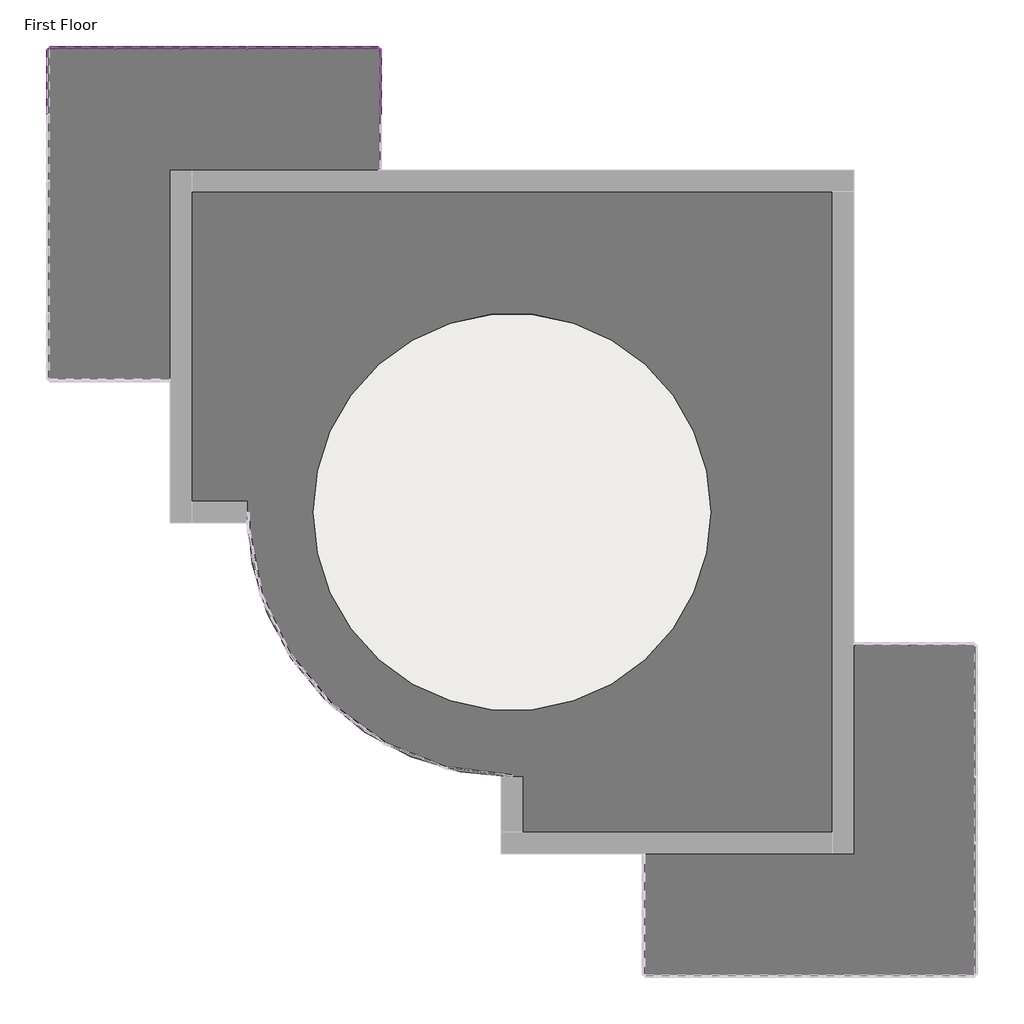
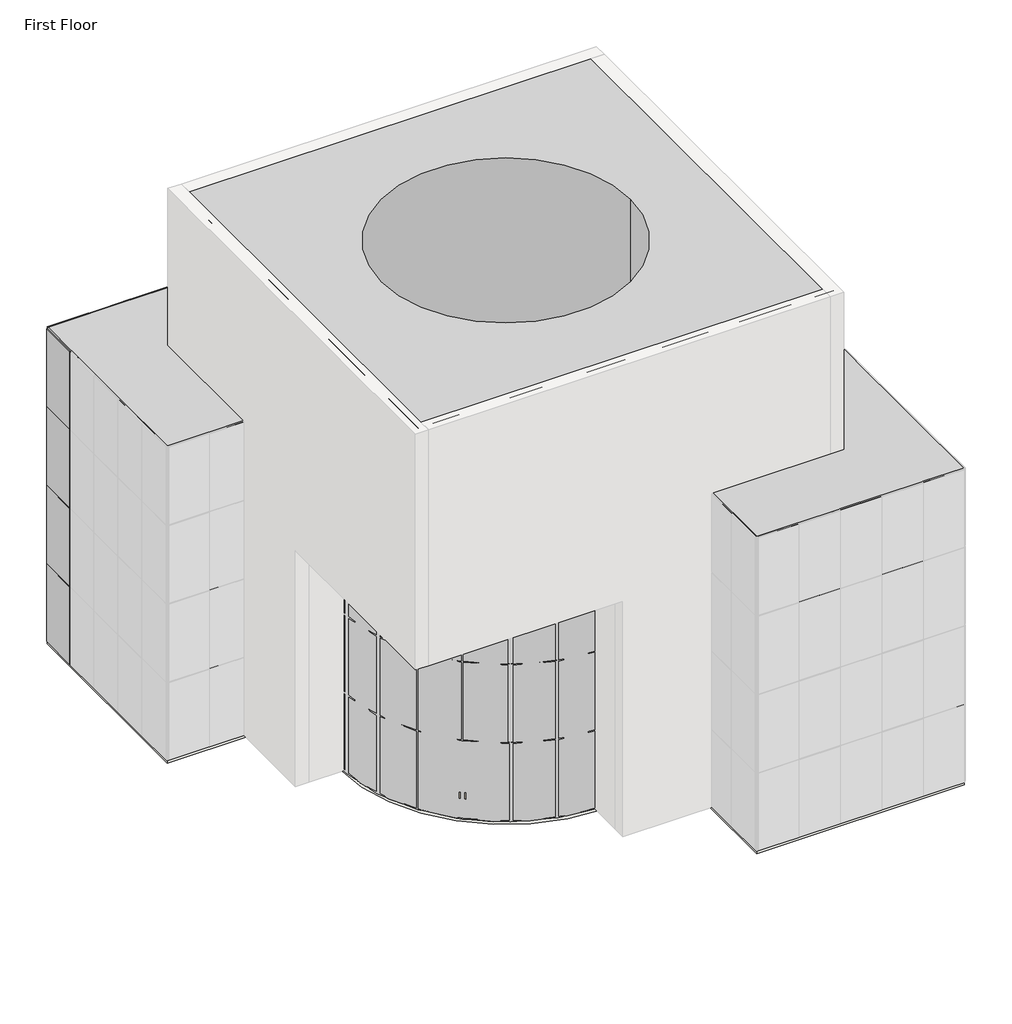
# One storey, part 4 of 4: 75 members, 28 plates, 4 slabs, 2 proxies.
"""IFC4 building model written with IfcOpenShell, lengths in millimetres."""

from ifc_helpers import new_model, si_unit, point, frame, frame_2d, origin, origin_with_axes, place, context, project, spatial, polyline, circle_curve, trimmed, segment, composite_curve, outline, extrude, transform, mapped, element, save
from ifc_brep_helpers import plane_surface, cylinder_surface, revolved_surface, advanced_brep
from components import member_5e617a80, member_74941792, member_cbdb9076, member_7e523723, member_9fd3d903, member_6604d1e0, member_e0356dda, member_be0b070d, system_panel_glazed_9b7d687a, system_panel_glazed_9a901b4a, system_panel_glazed_2d5e1d3d, system_panel_glazed_37964ea6

model = new_model("IFC4")

# Units and contexts
model_context = context("Model", 3, world=origin())
ifc_project = project(units=[si_unit("LENGTHUNIT", "METRE", prefix="MILLI")], contexts=[model_context])

# Site, building, storey
site = spatial("IfcSite", under=ifc_project)
building = spatial("IfcBuilding", under=site)
storey = spatial("IfcBuildingStorey", under=building, Name="First Floor", Elevation=0.0)

# Proxies
placement = place(None, origin())
element("IfcBuildingElementProxy", 1, Name="Central Hall : Central Hall", ObjectType="Central Hall : Central Hall", at=placement, inside=storey, context=model_context, shape_type="AdvancedBrep", body=[
    advanced_brep(
    [(5148.8943843, 6934.0139224, 18288.0), (-10091.1056157, 6934.0139224, 18288.0), (-10091.1056157, -8305.9860776, 18288.0), (5148.8943843, -8305.9860776, 18288.0), (2100.8943843, -685.9860776, 18288.0), (-7043.1056157, -685.9860776, 18288.0), (5148.8943843, 6934.0139224, 0.0), (5148.8943843, -8305.9860776, 0.0), (-2471.1056157, -8305.9860776, 0.0), (-2471.1056157, -6781.9860776, 0.0), (-8567.1056157, -685.9860776, 0.0), (-10091.1056157, -685.9860776, 0.0), (-10091.1056157, 6934.0139224, 0.0), (-7043.1056157, -685.9860776, 0.0), (2100.8943843, -685.9860776, 0.0), (-10091.1056157, -685.9860776, 9144.0), (-10091.1056157, -8305.9860776, 9144.0), (-2471.1056157, -8305.9860776, 9144.0), (-2471.1056157, -6781.9860776, 9144.0), (-8567.1056157, -685.9860776, 9144.0)],
    [
        (0, 1),
        (1, 2),
        (2, 3),
        (3, 0),
        (4, 5, circle_curve(frame((-2471.1056157, -685.9860776, 18288.0), z_axis=(0.0, 0.0, -1.0), x_axis=(1.0, 0.0, 0.0)), 4572.0)),
        (5, 4, circle_curve(frame((-2471.1056157, -685.9860776, 18288.0), z_axis=(0.0, 0.0, -1.0), x_axis=(1.0, 0.0, 0.0)), 4572.0)),
        (6, 7),
        (7, 8),
        (8, 9),
        (9, 10, circle_curve(frame((-2471.1056157, -685.9860776, 0.0), z_axis=(0.0, 0.0, -1.0), x_axis=(1.0, 0.0, 0.0)), 6096.0)),
        (10, 11),
        (11, 12),
        (12, 6),
        (13, 14, circle_curve(frame((-2471.1056157, -685.9860776, 0.0), z_axis=(0.0, 0.0, 1.0), x_axis=(1.0, 0.0, 0.0)), 4572.0)),
        (14, 13, circle_curve(frame((-2471.1056157, -685.9860776, 0.0), z_axis=(0.0, 0.0, 1.0), x_axis=(1.0, 0.0, 0.0)), 4572.0)),
        (0, 6),
        (12, 1),
        (11, 15),
        (15, 16),
        (16, 2),
        (16, 17),
        (17, 8),
        (7, 3),
        (4, 14),
        (13, 5),
        (18, 17),
        (15, 19),
        (19, 18, circle_curve(frame((-2471.1056157, -685.9860776, 9144.0), z_axis=(0.0, 0.0, 1.0), x_axis=(1.0, 0.0, 0.0)), 6096.0)),
        (19, 10),
        (9, 18),
    ],
    [
        plane_surface(frame((-10091.1056157, 6934.0139224, 18288.0), z_axis=(0.0, 0.0, 1.0), x_axis=(-1.0, 0.0, 0.0))),
        plane_surface(frame((-10091.1056157, 6934.0139224, 0.0), z_axis=(0.0, 0.0, -1.0), x_axis=(1.0, 0.0, 0.0))),
        plane_surface(frame((5148.8943843, 6934.0139224, 18288.0), z_axis=(0.0, 1.0, 0.0), x_axis=(0.0, 0.0, -1.0))),
        plane_surface(frame((-10091.1056157, 6934.0139224, 18288.0), z_axis=(-1.0, 0.0, 0.0), x_axis=(0.0, 0.0, -1.0))),
        plane_surface(frame((-10091.1056157, -8305.9860776, 18288.0), z_axis=(0.0, -1.0, 0.0), x_axis=(0.0, 0.0, -1.0))),
        plane_surface(frame((5148.8943843, -8305.9860776, 18288.0), z_axis=(1.0, 0.0, 0.0), x_axis=(0.0, 0.0, -1.0))),
        revolved_surface(polyline([(2100.8943843, -685.9860776, 18288.0), (2100.8943843, -685.9860776, 0.0)]), (-2471.1056157, -685.9860776, 0.0), (0.0, 0.0, 1.0)),
        plane_surface(frame((3624.8943843, -685.9860776, 9144.0), z_axis=(0.0, 0.0, -1.0), x_axis=(0.0, -1.0, 0.0))),
        cylinder_surface(frame((-2471.1056157, -685.9860776, 0.0), z_axis=(0.0, 0.0, -1.0), x_axis=(1.0, 0.0, 0.0)), 6096.0),
        plane_surface(frame((-8567.1056157, -685.9860776, 9144.0), z_axis=(0.0, -1.0, 0.0), x_axis=(0.0, 0.0, -1.0))),
        plane_surface(frame((-2471.1056157, -8305.9860776, 9144.0), z_axis=(-1.0, 0.0, 0.0), x_axis=(0.0, 0.0, -1.0))),
    ],
    [
        (0, [[1, 2, 3, 4], [5, 6]]),
        (1, [[7, 8, 9, 10, 11, 12, 13], [14, 15]]),
        (2, [[-1, 16, -13, 17]]),
        (3, [[-2, -17, -12, 18, 19, 20]]),
        (4, [[-3, -20, 21, 22, -8, 23]]),
        (5, [[-4, -23, -7, -16]]),
        (6, [[24, -14, 25, -5]]),
        (6, [[-24, -6, -25, -15]]),
        (7, [[26, -21, -19, 27, 28]]),
        (8, [[-28, 29, -10, 30]]),
        (9, [[-27, -18, -11, -29]]),
        (10, [[-26, -30, -9, -22]]),
    ],
),
])
element("IfcBuildingElementProxy", 2, Name="Wings : Wings", ObjectType="Wings : Wings", at=placement, inside=storey, context=model_context, shape_type="SweptSolid", body=[
    extrude(outline(polyline([(8196.8943843, -3733.9860776), (8196.8943843, -11353.9860776), (576.8943843, -11353.9860776), (576.8943843, -8305.9860776), (5148.8943843, -8305.9860776), (5148.8943843, -3733.9860776), (8196.8943843, -3733.9860776)])), origin_with_axes(), (0.0, 0.0, 1.0), 12192.0),
    extrude(outline(polyline([(-5519.1056157, 9982.0139224), (-5519.1056157, 6934.0139224), (-10091.1056157, 6934.0139224), (-10091.1056157, 2362.0139224), (-13139.1056157, 2362.0139224), (-13139.1056157, 9982.0139224), (-5519.1056157, 9982.0139224)])), origin_with_axes(), (0.0, 0.0, 1.0), 12192.0),
])

# Members
member_shape = member_5e617a80(model_context)
element("IfcMember", 3, ObjectType="Rectangular Mullion : 1\" Square", at=placement, inside=storey, context=model_context, shape_type="MappedRepresentation", body=[
    mapped(member_shape, transform((-7030.4056157, 9982.0139224, 3048.0), x_axis=(0.0, 0.0, 1.0), y_axis=(0.0, 1.0, 0.0), z_axis=(-0.9999999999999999, 0.0, 0.0))),
])
element("IfcMember", 4, ObjectType="Rectangular Mullion : 1\" Square", at=placement, inside=storey, context=model_context, shape_type="MappedRepresentation", body=[
    mapped(member_shape, transform((-13113.7056157, 9982.0139224, 3048.0), x_axis=(0.0, 0.0, 1.0), y_axis=(0.0, 1.0, 0.0), z_axis=(-1.0, 0.0, 0.0))),
])
element("IfcMember", 5, ObjectType="Rectangular Mullion : 1\" Square", at=placement, inside=storey, context=model_context, shape_type="MappedRepresentation", body=[
    mapped(member_shape, transform((-7030.4056157, 9982.0139224, 6096.0), x_axis=(0.0, 0.0, 1.0), y_axis=(0.0, 1.0, 0.0), z_axis=(-0.9999999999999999, 0.0, 0.0))),
])
element("IfcMember", 6, ObjectType="Rectangular Mullion : 1\" Square", at=placement, inside=storey, context=model_context, shape_type="MappedRepresentation", body=[
    mapped(member_shape, transform((-13113.7056157, 9982.0139224, 6096.0), x_axis=(0.0, 0.0, 1.0), y_axis=(0.0, 1.0, 0.0), z_axis=(-1.0, 0.0, 0.0))),
])
element("IfcMember", 7, ObjectType="Rectangular Mullion : 1\" Square", at=placement, inside=storey, context=model_context, shape_type="MappedRepresentation", body=[
    mapped(member_shape, transform((-7030.4056157, 9982.0139224, 9144.0), x_axis=(0.0, 0.0, 1.0), y_axis=(0.0, 1.0, 0.0), z_axis=(-0.9999999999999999, 0.0, 0.0))),
])
element("IfcMember", 8, ObjectType="Rectangular Mullion : 1\" Square", at=placement, inside=storey, context=model_context, shape_type="MappedRepresentation", body=[
    mapped(member_shape, transform((-13113.7056157, 9982.0139224, 9144.0), x_axis=(0.0, 0.0, 1.0), y_axis=(0.0, 1.0, 0.0), z_axis=(-1.0, 0.0, 0.0))),
])
member_2_shape = member_74941792(model_context)
element("IfcMember", 9, ObjectType="Rectangular Mullion : 1\" Square", at=placement, inside=storey, context=model_context, shape_type="MappedRepresentation", body=[
    mapped(member_2_shape, transform((-13113.7056157, 9982.0139224, 12192.0), x_axis=(0.0, 0.0, 1.0), y_axis=(0.0, 1.0, 0.0), z_axis=(-1.0, 0.0, 0.0))),
])
element("IfcMember", 10, ObjectType="Rectangular Mullion : 1\" Square", at=placement, inside=storey, context=model_context, shape_type="MappedRepresentation", body=[
    mapped(member_2_shape, transform((-7030.4056157, 9982.0139224, 12192.0), x_axis=(0.0, 0.0, 1.0), y_axis=(0.0, 1.0, 0.0), z_axis=(-0.9999999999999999, 0.0, 0.0))),
])
member_3_shape = member_cbdb9076(model_context)
element("IfcMember", 11, ObjectType="Rectangular Mullion : 1\" Square", at=placement, inside=storey, context=model_context, shape_type="MappedRepresentation", body=[
    mapped(member_3_shape, transform((-8567.1056157, 9982.0139224, 6096.0), x_axis=(-1.0, 0.0, 0.0), y_axis=(0.0, 1.0, 0.0), z_axis=(0.0, 0.0, -1.0))),
])
element("IfcMember", 12, ObjectType="Rectangular Mullion : 1\" Square", at=placement, inside=storey, context=model_context, shape_type="MappedRepresentation", body=[
    mapped(member_3_shape, transform((-10091.1056157, 9982.0139224, 3048.0), x_axis=(-1.0, 0.0, 0.0), y_axis=(0.0, 1.0, 0.0), z_axis=(0.0, 0.0, -1.0))),
])
element("IfcMember", 13, ObjectType="Rectangular Mullion : 1\" Square", at=placement, inside=storey, context=model_context, shape_type="MappedRepresentation", body=[
    mapped(member_3_shape, transform((-10091.1056157, 9982.0139224, 6096.0), x_axis=(-1.0, 0.0, 0.0), y_axis=(0.0, 1.0, 0.0), z_axis=(0.0, 0.0, -1.0))),
])
element("IfcMember", 14, ObjectType="Rectangular Mullion : 1\" Square", at=placement, inside=storey, context=model_context, shape_type="MappedRepresentation", body=[
    mapped(member_3_shape, transform((-11615.1056157, 9982.0139224, 3048.0), x_axis=(-1.0, 0.0, 0.0), y_axis=(0.0, 1.0, 0.0), z_axis=(0.0, 0.0, -1.0))),
])
element("IfcMember", 15, ObjectType="Rectangular Mullion : 1\" Square", at=placement, inside=storey, context=model_context, shape_type="MappedRepresentation", body=[
    mapped(member_3_shape, transform((-11615.1056157, 9982.0139224, 6096.0), x_axis=(-1.0, 0.0, 0.0), y_axis=(0.0, 1.0, 0.0), z_axis=(0.0, 0.0, -1.0))),
])
element("IfcMember", 16, ObjectType="Rectangular Mullion : 1\" Square", at=placement, inside=storey, context=model_context, shape_type="MappedRepresentation", body=[
    mapped(member_3_shape, transform((-7043.1056157, 9982.0139224, 3048.0), x_axis=(-1.0, 0.0, 0.0), y_axis=(0.0, 1.0, 0.0), z_axis=(0.0, 0.0, -1.0))),
])
element("IfcMember", 17, ObjectType="Rectangular Mullion : 1\" Square", at=placement, inside=storey, context=model_context, shape_type="MappedRepresentation", body=[
    mapped(member_3_shape, transform((-7043.1056157, 9982.0139224, 6096.0), x_axis=(-1.0, 0.0, 0.0), y_axis=(0.0, 1.0, 0.0), z_axis=(0.0, 0.0, -1.0))),
])
element("IfcMember", 18, ObjectType="Rectangular Mullion : 1\" Square", at=placement, inside=storey, context=model_context, shape_type="MappedRepresentation", body=[
    mapped(member_3_shape, transform((-8567.1056157, 9982.0139224, 3048.0), x_axis=(-1.0, 0.0, 0.0), y_axis=(0.0, 1.0, 0.0), z_axis=(0.0, 0.0, -1.0))),
])
element("IfcMember", 19, ObjectType="Rectangular Mullion : 1\" Square", at=placement, inside=storey, context=model_context, shape_type="MappedRepresentation", body=[
    mapped(member_3_shape, transform((-5519.1056157, 9978.8389224, 3048.0), x_axis=(0.0, 1.0, 0.0), y_axis=(1.0, 0.0, 0.0), z_axis=(0.0, 0.0, -1.0))),
])
element("IfcMember", 20, ObjectType="Rectangular Mullion : 1\" Square", at=placement, inside=storey, context=model_context, shape_type="MappedRepresentation", body=[
    mapped(member_3_shape, transform((-5519.1056157, 9978.8389224, 6096.0), x_axis=(0.0, 1.0, 0.0), y_axis=(1.0, 0.0, 0.0), z_axis=(0.0, 0.0, -1.0))),
])
element("IfcMember", 21, ObjectType="Rectangular Mullion : 1\" Square", at=placement, inside=storey, context=model_context, shape_type="MappedRepresentation", body=[
    mapped(member_3_shape, transform((-5519.1056157, 8454.8389224, 3048.0), x_axis=(0.0, 1.0, 0.0), y_axis=(1.0, 0.0, 0.0), z_axis=(0.0, 0.0, -1.0))),
])
element("IfcMember", 22, ObjectType="Rectangular Mullion : 1\" Square", at=placement, inside=storey, context=model_context, shape_type="MappedRepresentation", body=[
    mapped(member_3_shape, transform((-5519.1056157, 8454.8389224, 6096.0), x_axis=(0.0, 1.0, 0.0), y_axis=(1.0, 0.0, 0.0), z_axis=(0.0, 0.0, -1.0))),
])
element("IfcMember", 23, ObjectType="Rectangular Mullion : 1\" Square", at=placement, inside=storey, context=model_context, shape_type="MappedRepresentation", body=[
    mapped(member_3_shape, transform((-8567.1056157, 9982.0139224, 9144.0), x_axis=(-1.0, 0.0, 0.0), y_axis=(0.0, 1.0, 0.0), z_axis=(0.0, 0.0, -1.0))),
])
element("IfcMember", 24, ObjectType="Rectangular Mullion : 1\" Square", at=placement, inside=storey, context=model_context, shape_type="MappedRepresentation", body=[
    mapped(member_3_shape, transform((-10091.1056157, 9982.0139224, 9144.0), x_axis=(-1.0, 0.0, 0.0), y_axis=(0.0, 1.0, 0.0), z_axis=(0.0, 0.0, -1.0))),
])
element("IfcMember", 25, ObjectType="Rectangular Mullion : 1\" Square", at=placement, inside=storey, context=model_context, shape_type="MappedRepresentation", body=[
    mapped(member_3_shape, transform((-11615.1056157, 9982.0139224, 9144.0), x_axis=(-1.0, 0.0, 0.0), y_axis=(0.0, 1.0, 0.0), z_axis=(0.0, 0.0, -1.0))),
])
element("IfcMember", 26, ObjectType="Rectangular Mullion : 1\" Square", at=placement, inside=storey, context=model_context, shape_type="MappedRepresentation", body=[
    mapped(member_3_shape, transform((-7043.1056157, 9982.0139224, 9144.0), x_axis=(-1.0, 0.0, 0.0), y_axis=(0.0, 1.0, 0.0), z_axis=(0.0, 0.0, -1.0))),
])
element("IfcMember", 27, ObjectType="Rectangular Mullion : 1\" Square", at=placement, inside=storey, context=model_context, shape_type="MappedRepresentation", body=[
    mapped(member_3_shape, transform((-5519.1056157, 9978.8389224, 9144.0), x_axis=(0.0, 1.0, 0.0), y_axis=(1.0, 0.0, 0.0), z_axis=(0.0, 0.0, -1.0))),
])
element("IfcMember", 28, ObjectType="Rectangular Mullion : 1\" Square", at=placement, inside=storey, context=model_context, shape_type="MappedRepresentation", body=[
    mapped(member_3_shape, transform((-5519.1056157, 8454.8389224, 9144.0), x_axis=(0.0, 1.0, 0.0), y_axis=(1.0, 0.0, 0.0), z_axis=(0.0, 0.0, -1.0))),
])
element("IfcMember", 29, ObjectType="Rectangular Mullion : 1\" Square", at=placement, inside=storey, context=model_context, shape_type="MappedRepresentation", body=[
    mapped(member_3_shape, transform((-7043.1056157, 9982.0139224, 0.0), x_axis=(-1.0, 0.0, 0.0), y_axis=(0.0, 1.0, 0.0), z_axis=(0.0, 0.0, -1.0))),
])
element("IfcMember", 30, ObjectType="Rectangular Mullion : 1\" Square", at=placement, inside=storey, context=model_context, shape_type="MappedRepresentation", body=[
    mapped(member_3_shape, transform((-8567.1056157, 9982.0139224, 0.0), x_axis=(-1.0, 0.0, 0.0), y_axis=(0.0, 1.0, 0.0), z_axis=(0.0, 0.0, -1.0))),
])
element("IfcMember", 31, ObjectType="Rectangular Mullion : 1\" Square", at=placement, inside=storey, context=model_context, shape_type="MappedRepresentation", body=[
    mapped(member_3_shape, transform((-10091.1056157, 9982.0139224, 0.0), x_axis=(-1.0, 0.0, 0.0), y_axis=(0.0, 1.0, 0.0), z_axis=(0.0, 0.0, -1.0))),
])
element("IfcMember", 32, ObjectType="Rectangular Mullion : 1\" Square", at=placement, inside=storey, context=model_context, shape_type="MappedRepresentation", body=[
    mapped(member_3_shape, transform((-11615.1056157, 9982.0139224, 0.0), x_axis=(-1.0, 0.0, 0.0), y_axis=(0.0, 1.0, 0.0), z_axis=(0.0, 0.0, -1.0))),
])
element("IfcMember", 33, ObjectType="Rectangular Mullion : 1\" Square", at=placement, inside=storey, context=model_context, shape_type="MappedRepresentation", body=[
    mapped(member_3_shape, transform((-5519.1056157, 9978.8389224, 0.0), x_axis=(0.0, 1.0, 0.0), y_axis=(1.0, 0.0, 0.0), z_axis=(0.0, 0.0, -1.0))),
])
element("IfcMember", 34, ObjectType="Rectangular Mullion : 1\" Square", at=placement, inside=storey, context=model_context, shape_type="MappedRepresentation", body=[
    mapped(member_3_shape, transform((-5519.1056157, 8454.8389224, 0.0), x_axis=(0.0, 1.0, 0.0), y_axis=(1.0, 0.0, 0.0), z_axis=(0.0, 0.0, -1.0))),
])
element("IfcMember", 35, ObjectType="Rectangular Mullion : 1\" Square", at=placement, inside=storey, context=model_context, shape_type="MappedRepresentation", body=[
    mapped(member_2_shape, transform((-13139.1056157, 9956.6139224, 0.0), x_axis=(0.0, 0.0, -1.0), y_axis=(-1.0, 0.0, 0.0), z_axis=(0.0, 1.0, 0.0))),
])
element("IfcMember", 36, ObjectType="Rectangular Mullion : 1\" Square", at=placement, inside=storey, context=model_context, shape_type="MappedRepresentation", body=[
    mapped(member_2_shape, transform((-5544.5056157, 9982.0139224, 0.0), x_axis=(0.0, 0.0, -1.0), y_axis=(0.0, 1.0, 0.0), z_axis=(0.9999999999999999, 0.0, 0.0))),
])
element("IfcMember", 37, ObjectType="Rectangular Mullion : 1\" Square", at=placement, inside=storey, context=model_context, shape_type="MappedRepresentation", body=[
    mapped(member_2_shape, transform((-11627.8056157, 9982.0139224, 0.0), x_axis=(0.0, 0.0, -1.0), y_axis=(0.0, 1.0, 0.0), z_axis=(1.0, 0.0, 0.0))),
])
member_4_shape = member_7e523723(model_context)
element("IfcMember", 38, ObjectType="Rectangular Mullion : 1\" Square", at=placement, inside=storey, context=model_context, shape_type="MappedRepresentation", body=[
    mapped(member_4_shape, transform((-13139.1056157, 9982.0139224, 12192.0), x_axis=(0.0, 1.0, 0.0), y_axis=(-1.0, 0.0, 0.0), z_axis=(0.0, 0.0, 1.0))),
])
element("IfcMember", 39, ObjectType="Rectangular Mullion : 1\" Square", at=placement, inside=storey, context=model_context, shape_type="MappedRepresentation", body=[
    mapped(member_4_shape, transform((-5519.1056157, 9982.0139224, 12192.0), x_axis=(1.0, 0.0, 0.0), y_axis=(0.0, 1.0, 0.0), z_axis=(0.0, 0.0, 1.0))),
])
element("IfcMember", 40, ObjectType="Rectangular Mullion : 1\" Square", at=placement, inside=storey, context=model_context, shape_type="MappedRepresentation", body=[
    mapped(member_4_shape, transform((-13139.1056157, 9982.0139224, 3048.0), x_axis=(-1.0, 0.0, 0.0), y_axis=(0.0, 1.0, 0.0), z_axis=(0.0, 0.0, -1.0))),
])
element("IfcMember", 41, ObjectType="Rectangular Mullion : 1\" Square", at=placement, inside=storey, context=model_context, shape_type="MappedRepresentation", body=[
    mapped(member_4_shape, transform((-13139.1056157, 9982.0139224, 6096.0), x_axis=(-1.0, 0.0, 0.0), y_axis=(0.0, 1.0, 0.0), z_axis=(0.0, 0.0, -1.0))),
])
element("IfcMember", 42, ObjectType="Rectangular Mullion : 1\" Square", at=placement, inside=storey, context=model_context, shape_type="MappedRepresentation", body=[
    mapped(member_4_shape, transform((-13139.1056157, 9982.0139224, 9144.0), x_axis=(-1.0, 0.0, 0.0), y_axis=(0.0, 1.0, 0.0), z_axis=(0.0, 0.0, -1.0))),
])
element("IfcMember", 43, ObjectType="Rectangular Mullion : 1\" Square", at=placement, inside=storey, context=model_context, shape_type="MappedRepresentation", body=[
    mapped(member_4_shape, transform((-13139.1056157, 9982.0139224, 3048.0), x_axis=(0.0, 1.0, 0.0), y_axis=(-1.0, 0.0, 0.0), z_axis=(0.0, 0.0, 1.0))),
])
element("IfcMember", 44, ObjectType="Rectangular Mullion : 1\" Square", at=placement, inside=storey, context=model_context, shape_type="MappedRepresentation", body=[
    mapped(member_4_shape, transform((-5519.1056157, 9982.0139224, 3048.0), x_axis=(1.0, 0.0, 0.0), y_axis=(0.0, 1.0, 0.0), z_axis=(0.0, 0.0, 1.0))),
])
element("IfcMember", 45, ObjectType="Rectangular Mullion : 1\" Square", at=placement, inside=storey, context=model_context, shape_type="MappedRepresentation", body=[
    mapped(member_4_shape, transform((-13139.1056157, 9982.0139224, 6096.0), x_axis=(0.0, 1.0, 0.0), y_axis=(-1.0, 0.0, 0.0), z_axis=(0.0, 0.0, 1.0))),
])
element("IfcMember", 46, ObjectType="Rectangular Mullion : 1\" Square", at=placement, inside=storey, context=model_context, shape_type="MappedRepresentation", body=[
    mapped(member_4_shape, transform((-13139.1056157, 9982.0139224, 9144.0), x_axis=(0.0, 1.0, 0.0), y_axis=(-1.0, 0.0, 0.0), z_axis=(0.0, 0.0, 1.0))),
])
element("IfcMember", 47, ObjectType="Rectangular Mullion : 1\" Square", at=placement, inside=storey, context=model_context, shape_type="MappedRepresentation", body=[
    mapped(member_4_shape, transform((-5519.1056157, 9982.0139224, 6096.0), x_axis=(1.0, 0.0, 0.0), y_axis=(0.0, 1.0, 0.0), z_axis=(0.0, 0.0, 1.0))),
])
element("IfcMember", 48, ObjectType="Rectangular Mullion : 1\" Square", at=placement, inside=storey, context=model_context, shape_type="MappedRepresentation", body=[
    mapped(member_4_shape, transform((-5519.1056157, 9982.0139224, 9144.0), x_axis=(1.0, 0.0, 0.0), y_axis=(0.0, 1.0, 0.0), z_axis=(0.0, 0.0, 1.0))),
])
element("IfcMember", 49, ObjectType="Rectangular Mullion : 1\" Square", at=placement, inside=storey, context=model_context, shape_type="MappedRepresentation", body=[
    mapped(member_4_shape, transform((-13139.1056157, 9982.0139224, 0.0), x_axis=(-1.0, 0.0, 0.0), y_axis=(0.0, 1.0, 0.0), z_axis=(0.0, 0.0, -1.0))),
])
member_5_shape = member_9fd3d903(model_context)
element("IfcMember", 50, ObjectType="Rectangular Mullion : 1\" Square", at=placement, inside=storey, context=model_context, shape_type="MappedRepresentation", body=[
    mapped(member_5_shape, transform((-8554.4056157, 9982.0139224, 3048.0), x_axis=(0.0, 0.0, 1.0), y_axis=(0.0, 1.0, 0.0), z_axis=(-1.0, 0.0, 0.0))),
])
element("IfcMember", 51, ObjectType="Rectangular Mullion : 1\" Square", at=placement, inside=storey, context=model_context, shape_type="MappedRepresentation", body=[
    mapped(member_5_shape, transform((-10078.4056157, 9982.0139224, 3048.0), x_axis=(0.0, 0.0, 1.0), y_axis=(0.0, 1.0, 0.0), z_axis=(-0.9999999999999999, 0.0, 0.0))),
])
element("IfcMember", 52, ObjectType="Rectangular Mullion : 1\" Square", at=placement, inside=storey, context=model_context, shape_type="MappedRepresentation", body=[
    mapped(member_5_shape, transform((-11602.4056157, 9982.0139224, 3048.0), x_axis=(0.0, 0.0, 1.0), y_axis=(0.0, 1.0, 0.0), z_axis=(-1.0, 0.0, 0.0))),
])
element("IfcMember", 53, ObjectType="Rectangular Mullion : 1\" Square", at=placement, inside=storey, context=model_context, shape_type="MappedRepresentation", body=[
    mapped(member_5_shape, transform((-8554.4056157, 9982.0139224, 6096.0), x_axis=(0.0, 0.0, 1.0), y_axis=(0.0, 1.0, 0.0), z_axis=(-1.0, 0.0, 0.0))),
])
element("IfcMember", 54, ObjectType="Rectangular Mullion : 1\" Square", at=placement, inside=storey, context=model_context, shape_type="MappedRepresentation", body=[
    mapped(member_5_shape, transform((-10078.4056157, 9982.0139224, 6096.0), x_axis=(0.0, 0.0, 1.0), y_axis=(0.0, 1.0, 0.0), z_axis=(-0.9999999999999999, 0.0, 0.0))),
])
element("IfcMember", 55, ObjectType="Rectangular Mullion : 1\" Square", at=placement, inside=storey, context=model_context, shape_type="MappedRepresentation", body=[
    mapped(member_5_shape, transform((-11602.4056157, 9982.0139224, 6096.0), x_axis=(0.0, 0.0, 1.0), y_axis=(0.0, 1.0, 0.0), z_axis=(-1.0, 0.0, 0.0))),
])
element("IfcMember", 56, ObjectType="Rectangular Mullion : 1\" Square", at=placement, inside=storey, context=model_context, shape_type="MappedRepresentation", body=[
    mapped(member_5_shape, transform((-8554.4056157, 9982.0139224, 9144.0), x_axis=(0.0, 0.0, 1.0), y_axis=(0.0, 1.0, 0.0), z_axis=(-1.0, 0.0, 0.0))),
])
element("IfcMember", 57, ObjectType="Rectangular Mullion : 1\" Square", at=placement, inside=storey, context=model_context, shape_type="MappedRepresentation", body=[
    mapped(member_5_shape, transform((-10078.4056157, 9982.0139224, 9144.0), x_axis=(0.0, 0.0, 1.0), y_axis=(0.0, 1.0, 0.0), z_axis=(-0.9999999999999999, 0.0, 0.0))),
])
element("IfcMember", 58, ObjectType="Rectangular Mullion : 1\" Square", at=placement, inside=storey, context=model_context, shape_type="MappedRepresentation", body=[
    mapped(member_5_shape, transform((-11602.4056157, 9982.0139224, 9144.0), x_axis=(0.0, 0.0, 1.0), y_axis=(0.0, 1.0, 0.0), z_axis=(-1.0, 0.0, 0.0))),
])
element("IfcMember", 59, ObjectType="Rectangular Mullion : 1\" Square", at=placement, inside=storey, context=model_context, shape_type="MappedRepresentation", body=[
    mapped(member_5_shape, transform((-5519.1056157, 9966.1389224, 3048.0), x_axis=(0.0, 0.0, 1.0), y_axis=(1.0, 0.0, 0.0), z_axis=(0.0, 1.0, 0.0))),
])
element("IfcMember", 60, ObjectType="Rectangular Mullion : 1\" Square", at=placement, inside=storey, context=model_context, shape_type="MappedRepresentation", body=[
    mapped(member_5_shape, transform((-5519.1056157, 9966.1389224, 6096.0), x_axis=(0.0, 0.0, 1.0), y_axis=(1.0, 0.0, 0.0), z_axis=(0.0, 1.0, 0.0))),
])
element("IfcMember", 61, ObjectType="Rectangular Mullion : 1\" Square", at=placement, inside=storey, context=model_context, shape_type="MappedRepresentation", body=[
    mapped(member_5_shape, transform((-5519.1056157, 9966.1389224, 9144.0), x_axis=(0.0, 0.0, 1.0), y_axis=(1.0, 0.0, 0.0), z_axis=(0.0, 1.0, 0.0))),
])
member_6_shape = member_6604d1e0(model_context)
element("IfcMember", 62, ObjectType="Rectangular Mullion : 1\" Square", at=placement, inside=storey, context=model_context, shape_type="MappedRepresentation", body=[
    mapped(member_6_shape, transform((-8554.4056157, 9982.0139224, 12192.0), x_axis=(0.0, 0.0, 1.0), y_axis=(0.0, 1.0, 0.0), z_axis=(-1.0, 0.0, 0.0))),
])
element("IfcMember", 63, ObjectType="Rectangular Mullion : 1\" Square", at=placement, inside=storey, context=model_context, shape_type="MappedRepresentation", body=[
    mapped(member_6_shape, transform((-10078.4056157, 9982.0139224, 12192.0), x_axis=(0.0, 0.0, 1.0), y_axis=(0.0, 1.0, 0.0), z_axis=(-0.9999999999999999, 0.0, 0.0))),
])
element("IfcMember", 64, ObjectType="Rectangular Mullion : 1\" Square", at=placement, inside=storey, context=model_context, shape_type="MappedRepresentation", body=[
    mapped(member_6_shape, transform((-11602.4056157, 9982.0139224, 12192.0), x_axis=(0.0, 0.0, 1.0), y_axis=(0.0, 1.0, 0.0), z_axis=(-1.0, 0.0, 0.0))),
])
element("IfcMember", 65, ObjectType="Rectangular Mullion : 1\" Square", at=placement, inside=storey, context=model_context, shape_type="MappedRepresentation", body=[
    mapped(member_6_shape, transform((-5519.1056157, 9966.1389224, 12192.0), x_axis=(0.0, 0.0, 1.0), y_axis=(1.0, 0.0, 0.0), z_axis=(0.0, 1.0, 0.0))),
])
element("IfcMember", 66, ObjectType="Rectangular Mullion : 1\" Square", at=placement, inside=storey, context=model_context, shape_type="MappedRepresentation", body=[
    mapped(member_6_shape, transform((-7055.8056157, 9982.0139224, 0.0), x_axis=(0.0, 0.0, -1.0), y_axis=(0.0, 1.0, 0.0), z_axis=(1.0, 0.0, 0.0))),
])
element("IfcMember", 67, ObjectType="Rectangular Mullion : 1\" Square", at=placement, inside=storey, context=model_context, shape_type="MappedRepresentation", body=[
    mapped(member_6_shape, transform((-8579.8056157, 9982.0139224, 0.0), x_axis=(0.0, 0.0, -1.0), y_axis=(0.0, 1.0, 0.0), z_axis=(0.9999999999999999, 0.0, 0.0))),
])
element("IfcMember", 68, ObjectType="Rectangular Mullion : 1\" Square", at=placement, inside=storey, context=model_context, shape_type="MappedRepresentation", body=[
    mapped(member_6_shape, transform((-10103.8056157, 9982.0139224, 0.0), x_axis=(0.0, 0.0, -1.0), y_axis=(0.0, 1.0, 0.0), z_axis=(1.0, 0.0, 0.0))),
])
element("IfcMember", 69, ObjectType="Rectangular Mullion : 1\" Square", at=placement, inside=storey, context=model_context, shape_type="MappedRepresentation", body=[
    mapped(member_6_shape, transform((-5519.1056157, 8467.5389224, 0.0), x_axis=(0.0, 0.0, -1.0), y_axis=(1.0, 0.0, 0.0), z_axis=(0.0, -1.0, 0.0))),
])
member_7_shape = member_e0356dda(model_context)
element("IfcMember", 70, ObjectType="Rectangular Mullion : 1\" Square", at=placement, inside=storey, context=model_context, shape_type="MappedRepresentation", body=[
    mapped(member_7_shape, transform((-5519.1056157, 8442.1389224, 3048.0), x_axis=(0.0, 0.0, 1.0), y_axis=(1.0, 0.0, 0.0), z_axis=(0.0, 1.0, 0.0))),
])
element("IfcMember", 71, ObjectType="Rectangular Mullion : 1\" Square", at=placement, inside=storey, context=model_context, shape_type="MappedRepresentation", body=[
    mapped(member_7_shape, transform((-5519.1056157, 8442.1389224, 6096.0), x_axis=(0.0, 0.0, 1.0), y_axis=(1.0, 0.0, 0.0), z_axis=(0.0, 1.0, 0.0))),
])
element("IfcMember", 72, ObjectType="Rectangular Mullion : 1\" Square", at=placement, inside=storey, context=model_context, shape_type="MappedRepresentation", body=[
    mapped(member_7_shape, transform((-5519.1056157, 8442.1389224, 9144.0), x_axis=(0.0, 0.0, 1.0), y_axis=(1.0, 0.0, 0.0), z_axis=(0.0, 1.0, 0.0))),
])
member_8_shape = member_be0b070d(model_context)
element("IfcMember", 73, ObjectType="Rectangular Mullion : 1\" Square", at=placement, inside=storey, context=model_context, shape_type="MappedRepresentation", body=[
    mapped(member_8_shape, transform((-5519.1056157, 8442.1389224, 12192.0), x_axis=(0.0, 0.0, 1.0), y_axis=(1.0, 0.0, 0.0), z_axis=(0.0, 1.0, 0.0))),
])
element("IfcMember", 74, ObjectType="Rectangular Mullion : 1\" Square", at=placement, inside=storey, context=model_context, shape_type="MappedRepresentation", body=[
    mapped(member_4_shape, transform((-5519.1056157, 9982.0139224, 3048.0), x_axis=(0.0, 1.0, 0.0), y_axis=(1.0, 0.0, 0.0), z_axis=(0.0, 0.0, -1.0))),
])
element("IfcMember", 75, ObjectType="Rectangular Mullion : 1\" Square", at=placement, inside=storey, context=model_context, shape_type="MappedRepresentation", body=[
    mapped(member_4_shape, transform((-5519.1056157, 9982.0139224, 6096.0), x_axis=(0.0, 1.0, 0.0), y_axis=(1.0, 0.0, 0.0), z_axis=(0.0, 0.0, -1.0))),
])
element("IfcMember", 76, ObjectType="Rectangular Mullion : 1\" Square", at=placement, inside=storey, context=model_context, shape_type="MappedRepresentation", body=[
    mapped(member_4_shape, transform((-5519.1056157, 9982.0139224, 9144.0), x_axis=(0.0, 1.0, 0.0), y_axis=(1.0, 0.0, 0.0), z_axis=(0.0, 0.0, -1.0))),
])
element("IfcMember", 77, ObjectType="Rectangular Mullion : 1\" Square", at=placement, inside=storey, context=model_context, shape_type="MappedRepresentation", body=[
    mapped(member_4_shape, transform((-5519.1056157, 9982.0139224, 0.0), x_axis=(0.0, 1.0, 0.0), y_axis=(1.0, 0.0, 0.0), z_axis=(0.0, 0.0, -1.0))),
])

# Plates
system_panel_glazed_shape = system_panel_glazed_9b7d687a(model_context)
element("IfcPlate", 78, ObjectType="System Panel : Glazed", at=placement, inside=storey, context=model_context, shape_type="MappedRepresentation", body=[
    mapped(system_panel_glazed_shape, transform((-13139.1056157, 9213.6639224, 25.4), x_axis=(0.0, -1.0, 0.0), y_axis=(1.0, 0.0, 0.0), z_axis=(0.0, 0.0, 1.0))),
])
element("IfcPlate", 79, ObjectType="System Panel : Glazed", at=placement, inside=storey, context=model_context, shape_type="MappedRepresentation", body=[
    mapped(system_panel_glazed_shape, transform((-13139.1056157, 9213.6639224, 9156.7), x_axis=(0.0, -1.0, 0.0), y_axis=(1.0, 0.0, 0.0), z_axis=(0.0, 0.0, 1.0))),
])
element("IfcPlate", 80, ObjectType="System Panel : Glazed", at=placement, inside=storey, context=model_context, shape_type="MappedRepresentation", body=[
    mapped(system_panel_glazed_shape, transform((-6287.4556157, 9982.0139224, 25.4), x_axis=(-1.0, 0.0, 0.0), y_axis=(0.0, -1.0, 0.0), z_axis=(0.0, 0.0, 1.0))),
])
element("IfcPlate", 81, ObjectType="System Panel : Glazed", at=placement, inside=storey, context=model_context, shape_type="MappedRepresentation", body=[
    mapped(system_panel_glazed_shape, transform((-12370.7556157, 9982.0139224, 25.4), x_axis=(-1.0, 0.0, 0.0), y_axis=(0.0, -1.0, 0.0), z_axis=(0.0, 0.0, 1.0))),
])
element("IfcPlate", 82, ObjectType="System Panel : Glazed", at=placement, inside=storey, context=model_context, shape_type="MappedRepresentation", body=[
    mapped(system_panel_glazed_shape, transform((-6287.4556157, 9982.0139224, 9156.7), x_axis=(-1.0, 0.0, 0.0), y_axis=(0.0, -1.0, 0.0), z_axis=(0.0, 0.0, 1.0))),
])
element("IfcPlate", 83, ObjectType="System Panel : Glazed", at=placement, inside=storey, context=model_context, shape_type="MappedRepresentation", body=[
    mapped(system_panel_glazed_shape, transform((-12370.7556157, 9982.0139224, 9156.7), x_axis=(-1.0, 0.0, 0.0), y_axis=(0.0, -1.0, 0.0), z_axis=(0.0, 0.0, 1.0))),
])
system_panel_glazed_2_shape = system_panel_glazed_9a901b4a(model_context)
element("IfcPlate", 84, ObjectType="System Panel : Glazed", at=placement, inside=storey, context=model_context, shape_type="MappedRepresentation", body=[
    mapped(system_panel_glazed_2_shape, transform((-13139.1056157, 9213.6639224, 3060.7), x_axis=(0.0, -1.0, 0.0), y_axis=(1.0, 0.0, 0.0), z_axis=(0.0, 0.0, 1.0))),
])
element("IfcPlate", 85, ObjectType="System Panel : Glazed", at=placement, inside=storey, context=model_context, shape_type="MappedRepresentation", body=[
    mapped(system_panel_glazed_2_shape, transform((-13139.1056157, 9213.6639224, 6108.7), x_axis=(0.0, -1.0, 0.0), y_axis=(1.0, 0.0, 0.0), z_axis=(0.0, 0.0, 1.0))),
])
element("IfcPlate", 86, ObjectType="System Panel : Glazed", at=placement, inside=storey, context=model_context, shape_type="MappedRepresentation", body=[
    mapped(system_panel_glazed_2_shape, transform((-6287.4556157, 9982.0139224, 3060.7), x_axis=(-1.0, 0.0, 0.0), y_axis=(0.0, -1.0, 0.0), z_axis=(0.0, 0.0, 1.0))),
])
element("IfcPlate", 87, ObjectType="System Panel : Glazed", at=placement, inside=storey, context=model_context, shape_type="MappedRepresentation", body=[
    mapped(system_panel_glazed_2_shape, transform((-12370.7556157, 9982.0139224, 3060.7), x_axis=(-1.0, 0.0, 0.0), y_axis=(0.0, -1.0, 0.0), z_axis=(0.0, 0.0, 1.0))),
])
element("IfcPlate", 88, ObjectType="System Panel : Glazed", at=placement, inside=storey, context=model_context, shape_type="MappedRepresentation", body=[
    mapped(system_panel_glazed_2_shape, transform((-6287.4556157, 9982.0139224, 6108.7), x_axis=(-1.0, 0.0, 0.0), y_axis=(0.0, -1.0, 0.0), z_axis=(0.0, 0.0, 1.0))),
])
element("IfcPlate", 89, ObjectType="System Panel : Glazed", at=placement, inside=storey, context=model_context, shape_type="MappedRepresentation", body=[
    mapped(system_panel_glazed_2_shape, transform((-12370.7556157, 9982.0139224, 6108.7), x_axis=(-1.0, 0.0, 0.0), y_axis=(0.0, -1.0, 0.0), z_axis=(0.0, 0.0, 1.0))),
])
system_panel_glazed_3_shape = system_panel_glazed_2d5e1d3d(model_context)
element("IfcPlate", 90, ObjectType="System Panel : Glazed", at=placement, inside=storey, context=model_context, shape_type="MappedRepresentation", body=[
    mapped(system_panel_glazed_3_shape, transform((-7805.1056157, 9982.0139224, 25.4), x_axis=(-1.0, 0.0, 0.0), y_axis=(0.0, -1.0, 0.0), z_axis=(0.0, 0.0, 1.0))),
])
element("IfcPlate", 91, ObjectType="System Panel : Glazed", at=placement, inside=storey, context=model_context, shape_type="MappedRepresentation", body=[
    mapped(system_panel_glazed_3_shape, transform((-9329.1056157, 9982.0139224, 25.4), x_axis=(-1.0, 0.0, 0.0), y_axis=(0.0, -1.0, 0.0), z_axis=(0.0, 0.0, 1.0))),
])
element("IfcPlate", 92, ObjectType="System Panel : Glazed", at=placement, inside=storey, context=model_context, shape_type="MappedRepresentation", body=[
    mapped(system_panel_glazed_3_shape, transform((-10853.1056157, 9982.0139224, 25.4), x_axis=(-1.0, 0.0, 0.0), y_axis=(0.0, -1.0, 0.0), z_axis=(0.0, 0.0, 1.0))),
])
element("IfcPlate", 93, ObjectType="System Panel : Glazed", at=placement, inside=storey, context=model_context, shape_type="MappedRepresentation", body=[
    mapped(system_panel_glazed_3_shape, transform((-7805.1056157, 9982.0139224, 9156.7), x_axis=(-1.0, 0.0, 0.0), y_axis=(0.0, -1.0, 0.0), z_axis=(0.0, 0.0, 1.0))),
])
element("IfcPlate", 94, ObjectType="System Panel : Glazed", at=placement, inside=storey, context=model_context, shape_type="MappedRepresentation", body=[
    mapped(system_panel_glazed_3_shape, transform((-9329.1056157, 9982.0139224, 9156.7), x_axis=(-1.0, 0.0, 0.0), y_axis=(0.0, -1.0, 0.0), z_axis=(0.0, 0.0, 1.0))),
])
element("IfcPlate", 95, ObjectType="System Panel : Glazed", at=placement, inside=storey, context=model_context, shape_type="MappedRepresentation", body=[
    mapped(system_panel_glazed_3_shape, transform((-10853.1056157, 9982.0139224, 9156.7), x_axis=(-1.0, 0.0, 0.0), y_axis=(0.0, -1.0, 0.0), z_axis=(0.0, 0.0, 1.0))),
])
element("IfcPlate", 96, ObjectType="System Panel : Glazed", at=placement, inside=storey, context=model_context, shape_type="MappedRepresentation", body=[
    mapped(system_panel_glazed_3_shape, transform((-5519.1056157, 9216.8389224, 25.4), x_axis=(0.0, 1.0, 0.0), y_axis=(-1.0, 0.0, 0.0), z_axis=(0.0, 0.0, 1.0))),
])
element("IfcPlate", 97, ObjectType="System Panel : Glazed", at=placement, inside=storey, context=model_context, shape_type="MappedRepresentation", body=[
    mapped(system_panel_glazed_3_shape, transform((-5519.1056157, 9216.8389224, 9156.7), x_axis=(0.0, 1.0, 0.0), y_axis=(-1.0, 0.0, 0.0), z_axis=(0.0, 0.0, 1.0))),
])
system_panel_glazed_4_shape = system_panel_glazed_37964ea6(model_context)
element("IfcPlate", 98, ObjectType="System Panel : Glazed", at=placement, inside=storey, context=model_context, shape_type="MappedRepresentation", body=[
    mapped(system_panel_glazed_4_shape, transform((-7805.1056157, 9982.0139224, 3060.7), x_axis=(-1.0, 0.0, 0.0), y_axis=(0.0, -1.0, 0.0), z_axis=(0.0, 0.0, 1.0))),
])
element("IfcPlate", 99, ObjectType="System Panel : Glazed", at=placement, inside=storey, context=model_context, shape_type="MappedRepresentation", body=[
    mapped(system_panel_glazed_4_shape, transform((-9329.1056157, 9982.0139224, 3060.7), x_axis=(-1.0, 0.0, 0.0), y_axis=(0.0, -1.0, 0.0), z_axis=(0.0, 0.0, 1.0))),
])
element("IfcPlate", 100, ObjectType="System Panel : Glazed", at=placement, inside=storey, context=model_context, shape_type="MappedRepresentation", body=[
    mapped(system_panel_glazed_4_shape, transform((-10853.1056157, 9982.0139224, 3060.7), x_axis=(-1.0, 0.0, 0.0), y_axis=(0.0, -1.0, 0.0), z_axis=(0.0, 0.0, 1.0))),
])
element("IfcPlate", 101, ObjectType="System Panel : Glazed", at=placement, inside=storey, context=model_context, shape_type="MappedRepresentation", body=[
    mapped(system_panel_glazed_4_shape, transform((-7805.1056157, 9982.0139224, 6108.7), x_axis=(-1.0, 0.0, 0.0), y_axis=(0.0, -1.0, 0.0), z_axis=(0.0, 0.0, 1.0))),
])
element("IfcPlate", 102, ObjectType="System Panel : Glazed", at=placement, inside=storey, context=model_context, shape_type="MappedRepresentation", body=[
    mapped(system_panel_glazed_4_shape, transform((-9329.1056157, 9982.0139224, 6108.7), x_axis=(-1.0, 0.0, 0.0), y_axis=(0.0, -1.0, 0.0), z_axis=(0.0, 0.0, 1.0))),
])
element("IfcPlate", 103, ObjectType="System Panel : Glazed", at=placement, inside=storey, context=model_context, shape_type="MappedRepresentation", body=[
    mapped(system_panel_glazed_4_shape, transform((-10853.1056157, 9982.0139224, 6108.7), x_axis=(-1.0, 0.0, 0.0), y_axis=(0.0, -1.0, 0.0), z_axis=(0.0, 0.0, 1.0))),
])
element("IfcPlate", 104, ObjectType="System Panel : Glazed", at=placement, inside=storey, context=model_context, shape_type="MappedRepresentation", body=[
    mapped(system_panel_glazed_4_shape, transform((-5519.1056157, 9216.8389224, 3060.7), x_axis=(0.0, 1.0, 0.0), y_axis=(-1.0, 0.0, 0.0), z_axis=(0.0, 0.0, 1.0))),
])
element("IfcPlate", 105, ObjectType="System Panel : Glazed", at=placement, inside=storey, context=model_context, shape_type="MappedRepresentation", body=[
    mapped(system_panel_glazed_4_shape, transform((-5519.1056157, 9216.8389224, 6108.7), x_axis=(0.0, 1.0, 0.0), y_axis=(-1.0, 0.0, 0.0), z_axis=(0.0, 0.0, 1.0))),
])

# Slabs
element("IfcSlab", 106, ObjectType="LW Concrete on Metal Deck", at=placement, inside=storey, context=model_context, shape_type="SweptSolid", body=[
    extrude(outline(composite_curve([segment(polyline([(5148.8943843, 6934.0139224), (5148.8943843, -8305.9860776), (-2471.1056157, -8305.9860776), (-2471.1056157, -6781.9860776)]), True, "CONTINUOUS"), segment(trimmed(circle_curve(frame_2d((-2471.1056157, -685.9860776)), 6096.0), [point((-2471.1056157, -6781.9860776))], [point((-8567.1056157, -685.9860776))], False, "CARTESIAN"), True, "CONTINUOUS"), segment(polyline([(-8567.1056157, -685.9860776), (-10091.1056157, -685.9860776), (-10091.1056157, 6934.0139224), (5148.8943843, 6934.0139224)]), True, "CONTINUOUS")], self_intersect=False), holes=[composite_curve([segment(trimmed(circle_curve(frame_2d((-2471.1056157, -685.9860776)), 4572.0), [point((2100.8943843, -685.9860776))], [point((-7043.1056157, -685.9860776))], True, "CARTESIAN"), True, "CONTINUOUS"), segment(trimmed(circle_curve(frame_2d((-2471.1056157, -685.9860776)), 4572.0), [point((-7043.1056157, -685.9860776))], [point((2100.8943843, -685.9860776))], True, "CARTESIAN"), True, "CONTINUOUS")], self_intersect=False)]), frame((0.0, 0.0, -104.775), z_axis=(0.0, 0.0, 1.0), x_axis=(1.0, 0.0, 0.0)), (0.0, 0.0, 1.0), 104.775),
])
element("IfcSlab", 107, ObjectType="LW Concrete on Metal Deck", at=placement, inside=storey, context=model_context, shape_type="SweptSolid", body=[
    extrude(outline(polyline([(8196.8943843, -3733.9860776), (8196.8943843, -11353.9860776), (576.8943843, -11353.9860776), (576.8943843, -8305.9860776), (5148.8943843, -8305.9860776), (5148.8943843, -3733.9860776), (8196.8943843, -3733.9860776)])), frame((0.0, 0.0, -104.775), z_axis=(0.0, 0.0, 1.0), x_axis=(1.0, 0.0, 0.0)), (0.0, 0.0, 1.0), 104.775),
    extrude(outline(polyline([(-5519.1056157, 9982.0139224), (-5519.1056157, 6934.0139224), (-10091.1056157, 6934.0139224), (-10091.1056157, 2362.0139224), (-13139.1056157, 2362.0139224), (-13139.1056157, 9982.0139224), (-5519.1056157, 9982.0139224)])), frame((0.0, 0.0, -104.775), z_axis=(0.0, 0.0, 1.0), x_axis=(1.0, 0.0, 0.0)), (0.0, 0.0, 1.0), 104.775),
])
element("IfcSlab", 108, ObjectType="LW Concrete on Metal Deck", at=placement, inside=storey, context=model_context, shape_type="SweptSolid", body=[
    extrude(outline(composite_curve([segment(polyline([(5148.8943843, 6934.0139224), (5148.8943843, -8305.9860776), (-2471.1056157, -8305.9860776), (-2471.1056157, -6781.9860776)]), True, "CONTINUOUS"), segment(trimmed(circle_curve(frame_2d((-2471.1056157, -685.9860776)), 6096.0), [point((-2471.1056157, -6781.9860776))], [point((-8567.1056157, -685.9860776))], False, "CARTESIAN"), True, "CONTINUOUS"), segment(polyline([(-8567.1056157, -685.9860776), (-10091.1056157, -685.9860776), (-10091.1056157, 6934.0139224), (5148.8943843, 6934.0139224)]), True, "CONTINUOUS")], self_intersect=False)), frame((0.0, 0.0, -104.775), z_axis=(0.0, 0.0, 1.0), x_axis=(1.0, 0.0, 0.0)), (0.0, 0.0, 1.0), 104.775),
])
element("IfcSlab", 109, ObjectType="LW Concrete on Metal Deck", at=placement, inside=storey, context=model_context, shape_type="SweptSolid", body=[
    extrude(outline(polyline([(8196.8943843, -3733.9860776), (8196.8943843, -11353.9860776), (576.8943843, -11353.9860776), (576.8943843, -8305.9860776), (5148.8943843, -8305.9860776), (5148.8943843, -3733.9860776), (8196.8943843, -3733.9860776)])), frame((0.0, 0.0, -104.775), z_axis=(0.0, 0.0, 1.0), x_axis=(1.0, 0.0, 0.0)), (0.0, 0.0, 1.0), 104.775),
    extrude(outline(polyline([(-5519.1056157, 9982.0139224), (-5519.1056157, 6934.0139224), (-10091.1056157, 6934.0139224), (-10091.1056157, 2362.0139224), (-13139.1056157, 2362.0139224), (-13139.1056157, 9982.0139224), (-5519.1056157, 9982.0139224)])), frame((0.0, 0.0, -104.775), z_axis=(0.0, 0.0, 1.0), x_axis=(1.0, 0.0, 0.0)), (0.0, 0.0, 1.0), 104.775),
])

save(model, "model.ifc")
